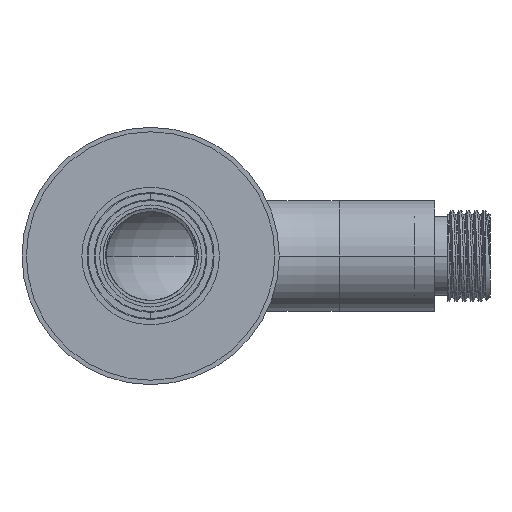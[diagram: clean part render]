
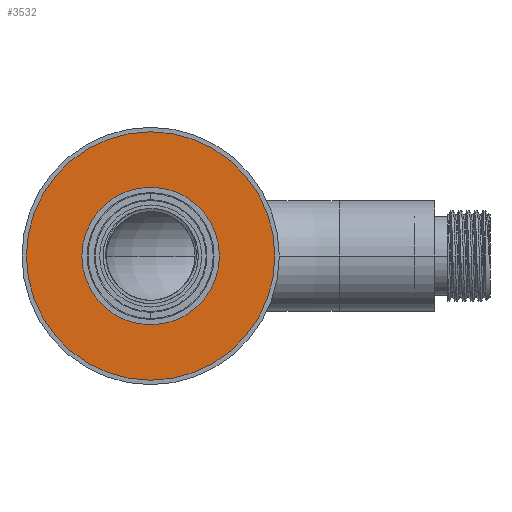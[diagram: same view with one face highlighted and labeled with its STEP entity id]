
A CAD part, left-side view. The second image highlights one B-rep face of the part: STEP entity #3532.
In plain terms, the highlighted planar face has unit normal (-1, 0, 0).
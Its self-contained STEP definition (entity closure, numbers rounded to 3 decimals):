
#3235=CARTESIAN_POINT('',(8.,0.,0.));
#3236=DIRECTION('',(-1.,0.,0.));
#3237=DIRECTION('',(0.,1.,0.));
#3238=AXIS2_PLACEMENT_3D('',#3235,#3236,#3237);
#3240=CARTESIAN_POINT('',(8.,0.,0.));
#3241=DIRECTION('',(1.,0.,0.));
#3242=DIRECTION('',(0.,1.,0.));
#3243=AXIS2_PLACEMENT_3D('',#3240,#3241,#3242);
#3245=CARTESIAN_POINT('',(8.,0.,0.));
#3246=DIRECTION('',(1.,0.,0.));
#3247=DIRECTION('',(0.,1.,0.));
#3248=AXIS2_PLACEMENT_3D('',#3245,#3246,#3247);
#3258=CARTESIAN_POINT('',(8.,0.,0.));
#3259=DIRECTION('',(-1.,0.,0.));
#3260=DIRECTION('',(0.,1.,0.));
#3261=AXIS2_PLACEMENT_3D('',#3258,#3259,#3260);
#3416=CARTESIAN_POINT('',(8.,28.,0.));
#3418=VERTEX_POINT('',#3416);
#3420=CARTESIAN_POINT('',(8.,-28.,0.));
#3422=VERTEX_POINT('',#3420);
#3435=CARTESIAN_POINT('',(8.,15.5,0.));
#3437=VERTEX_POINT('',#3435);
#3439=CARTESIAN_POINT('',(8.,-15.5,0.));
#3441=VERTEX_POINT('',#3439);
#3517=CARTESIAN_POINT('',(8.,0.,0.));
#3518=DIRECTION('',(1.,0.,0.));
#3519=DIRECTION('',(0.,-1.,0.));
#3520=AXIS2_PLACEMENT_3D('',#3517,#3518,#3519);
#3521=PLANE('',#3520);
#3522=ORIENTED_EDGE('',*,*,#3510,.F.);
#3523=ORIENTED_EDGE('',*,*,#3499,.T.);
#3524=EDGE_LOOP('',(#3522,#3523));
#3525=FACE_OUTER_BOUND('',#3524,.F.);
#3527=ORIENTED_EDGE('',*,*,#3526,.F.);
#3529=ORIENTED_EDGE('',*,*,#3528,.T.);
#3530=EDGE_LOOP('',(#3527,#3529));
#3531=FACE_BOUND('',#3530,.F.);
#3239=CIRCLE('',#3238,28.);
#3244=CIRCLE('',#3243,28.);
#3249=CIRCLE('',#3248,15.5);
#3262=CIRCLE('',#3261,15.5);
#3499=EDGE_CURVE('',#3418,#3422,#3244,.T.);
#3510=EDGE_CURVE('',#3418,#3422,#3239,.T.);
#3526=EDGE_CURVE('',#3437,#3441,#3249,.T.);
#3528=EDGE_CURVE('',#3437,#3441,#3262,.T.);
#3532=ADVANCED_FACE('',(#3525,#3531),#3521,.F.);
